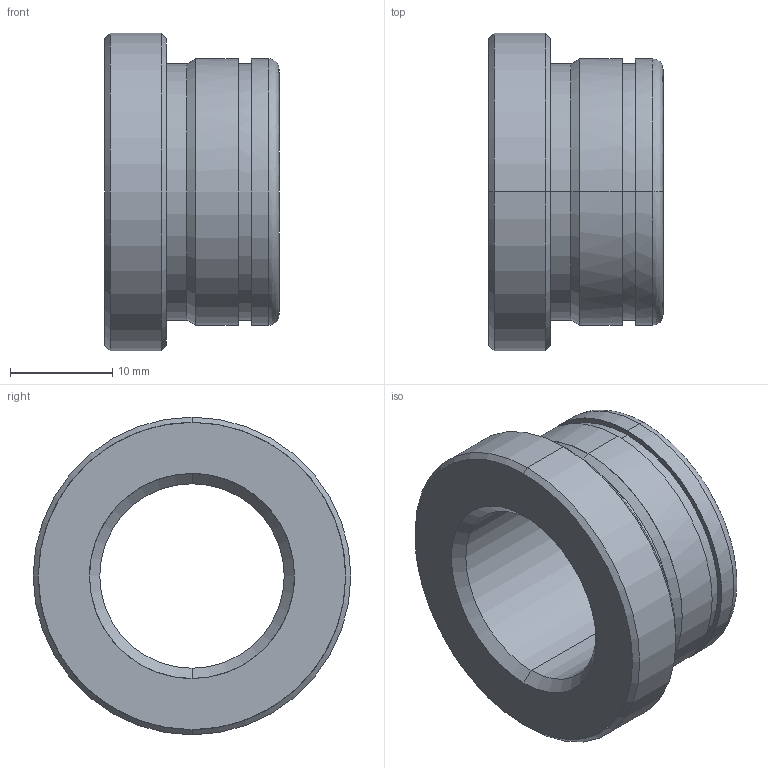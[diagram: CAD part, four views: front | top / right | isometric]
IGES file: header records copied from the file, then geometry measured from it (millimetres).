
Start section: START RECORD GO HERE.
Global section: file name: 553-18X17.igs; native system: DASSAULT SYSTEMES CATIA V5 R20 - www.3ds.com; preprocessor: CATIA Version 5 Release 20 ; author: Utente; organization: NB04-ASUS; date: 20210523.193325; units: millimetre
Bounding box: 17 x 31 x 31 mm (x, y, z)
Surface area: 3403.5 mm2 (no closed solid volume)
Topology: 0 solids, 0 shells, 29 faces, 184 edges, 184 vertices
Faces by surface type: revolution 24, plane 5
